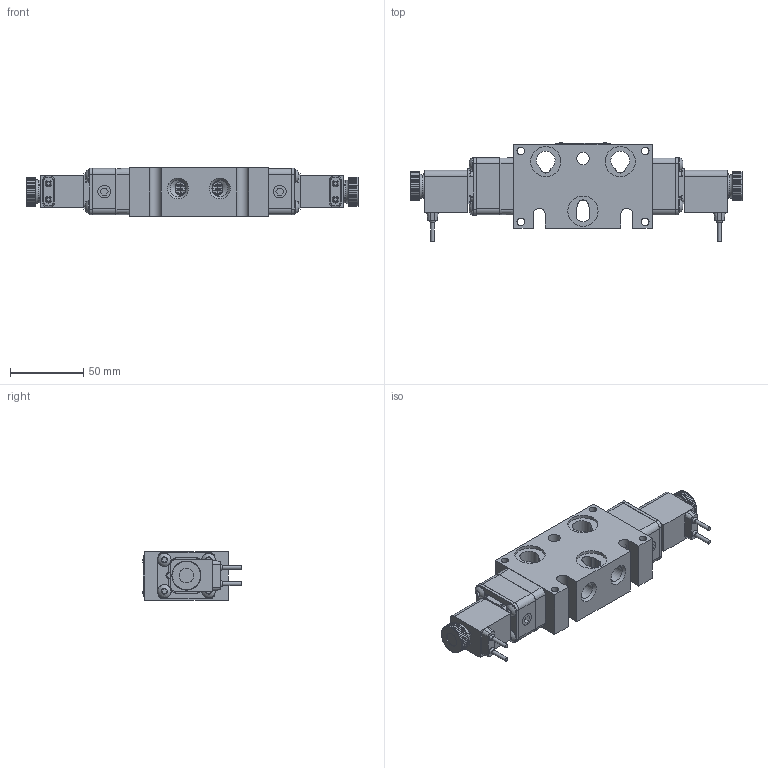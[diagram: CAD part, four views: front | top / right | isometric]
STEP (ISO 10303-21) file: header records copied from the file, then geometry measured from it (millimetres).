
FILE_DESCRIPTION(/* description */ (''),/* implementation_level */ '2;1');
FILE_NAME(/* name */ 'D:\Website Files\stp\Valves\Standard\ESY\EBSY2ML.stp',/* time_stamp */ '2018-05-13T20:32:37-04:00',/* author */ ('RMcKenna'),/* organization */ (''),/* preprocessor_version */ 'ST-DEVELOPER v17',/* originating_system */ 'Autodesk Inventor 2018',/* authorisation */ '');
FILE_SCHEMA (('AUTOMOTIVE_DESIGN { 1 0 10303 214 3 1 1 }'));
Products named in the file (1): Part18
Bounding box: 226.43 x 67.45 x 33.32 mm (x, y, z)
Volume: 217000.2 mm3; surface area: 88450.3 mm2
Topology: 4 solids, 24 shells, 2243 faces, 5863 edges, 3820 vertices
Faces by surface type: plane 1064, cylinder 682, cone 251, torus 178, bspline 58, sphere 10
Full cylindrical faces by diameter (mm): 1.3 x2, 1.397 x2, 1.5 x2, 2.007 x2, 2.032 x8, 2.07 x2, 2.261 x2, 2.35 x8, 2.54 x4, 2.778 x2, 2.8 x2, 2.819 x2, 3 x8, 3.048 x2, 3.4 x2, 3.683 x11, 4.191 x4, 4.826 x6, 4.953 x2, 5.15 x6, 5.156 x10, 5.5 x2, 6.553 x2, 7.315 x2, 7.938 x1, 8 x4, 8.052 x2, 8.128 x2, 8.334 x1, 8.433 x2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
Entity records: 75303 total; most frequent: CARTESIAN_POINT 17195, DIRECTION 11869, ORIENTED_EDGE 11702, EDGE_CURVE 5851, AXIS2_PLACEMENT_3D 4488, VERTEX_POINT 3818, LINE 2893, VECTOR 2893
